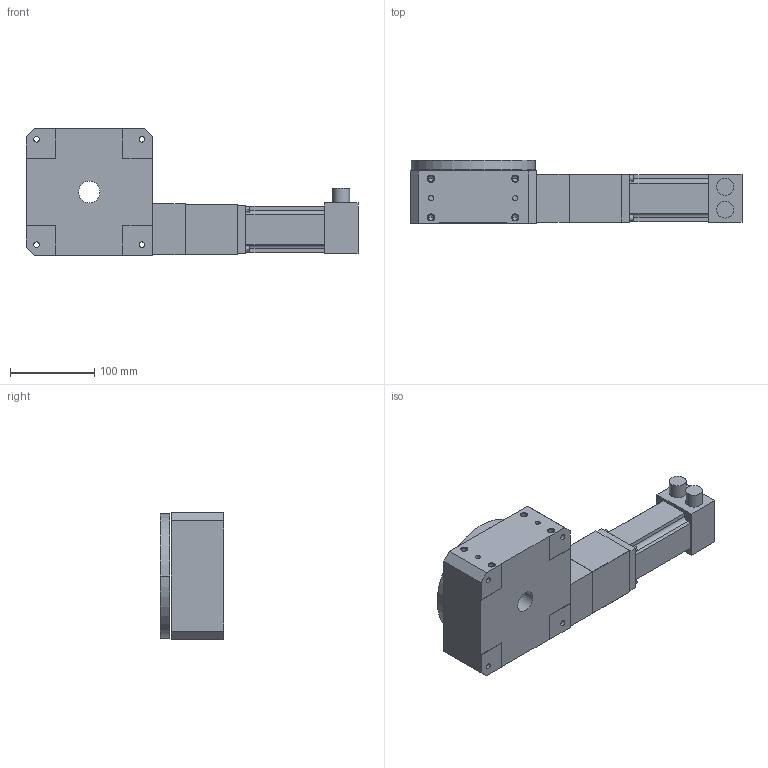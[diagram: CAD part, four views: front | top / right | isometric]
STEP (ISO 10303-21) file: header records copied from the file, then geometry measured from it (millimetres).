
FILE_DESCRIPTION((''),'2;1');
FILE_NAME('R150M7MP2E0_ASM','2009-07-02T',('FK20128'),(''),'PRO/ENGINEER BY PARAMETRIC TECHNOLOGY CORPORATION, 2006200','PRO/ENGINEER BY PARAMETRIC TECHNOLOGY CORPORATION, 2006200','');
FILE_SCHEMA(('CONFIG_CONTROL_DESIGN'));
Length unit declared in the file: millimetre
Products named in the file (4): R150M; R150M-M23; RXXXM-BE233; R150M7MP2E0_ASM
Assembly tree (3 placements, depth 2):
  R150M7MP2E0_ASM
    R150M
    R150M-M23
    RXXXM-BE233
Bounding box: 394.12 x 74.83 x 150 mm (x, y, z)
Volume: 2237747.6 mm3; surface area: 218518.3 mm2
Topology: 4 solids, 20 shells, 275 faces, 663 edges, 436 vertices
Faces by surface type: cylinder 146, plane 103, cone 26
Entity records: 8198 total; most frequent: DIRECTION 1549, CARTESIAN_POINT 1367, ORIENTED_EDGE 1230, EDGE_CURVE 647, AXIS2_PLACEMENT_3D 618, VERTEX_POINT 436, EDGE_LOOP 361, CIRCLE 334
